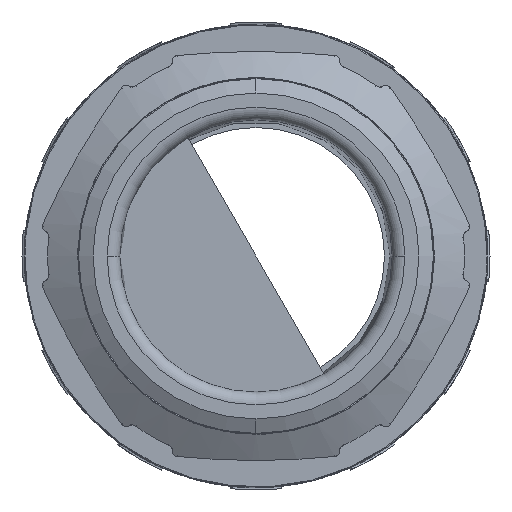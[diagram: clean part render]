
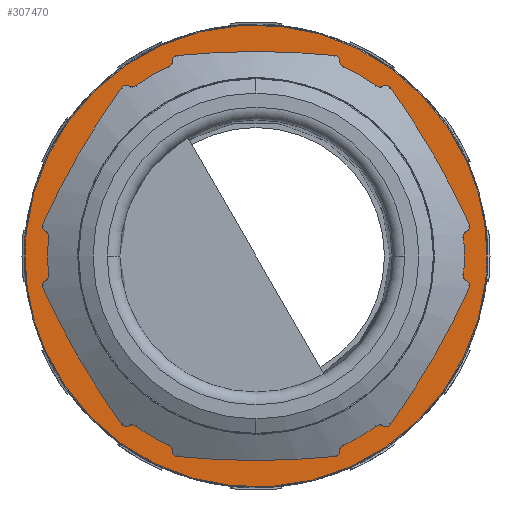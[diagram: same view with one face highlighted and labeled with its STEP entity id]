
A CAD part, left-side view. The second image highlights one B-rep face of the part: STEP entity #307470.
In plain terms, the highlighted planar face has unit normal (-1, 0, 0).
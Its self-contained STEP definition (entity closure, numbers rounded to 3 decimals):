
#301410=CARTESIAN_POINT('',(3476.544,286.338,0.));
#301420=VERTEX_POINT('',#301410);
#301470=CARTESIAN_POINT('',(3476.544,310.033,0.));
#301480=DIRECTION('',(1.,0.,0.));
#301490=DIRECTION('',(0.,1.,0.));
#301500=AXIS2_PLACEMENT_3D('',#301470,#301480,#301490);
#301510=CIRCLE('',#301500,23.695);
#301520=CARTESIAN_POINT('',(3476.544,312.814,
-23.531));
#301530=VERTEX_POINT('',#301520);
#301540=EDGE_CURVE('',#301420,#301530,#301510,.T.);
#301560=CARTESIAN_POINT('',(3476.544,333.728,0.));
#301570=VERTEX_POINT('',#301560);
#301580=EDGE_CURVE('',#301530,#301570,#301510,.T.);
#302280=CARTESIAN_POINT('',(3476.544,307.252,
27.007));
#302290=VERTEX_POINT('',#302280);
#303020=CARTESIAN_POINT('',(3476.544,294.121,
21.998));
#303030=VERTEX_POINT('',#303020);
#303060=CARTESIAN_POINT('',(3476.544,310.033,0.));
#303070=DIRECTION('',(1.,0.,0.));
#303080=DIRECTION('',(0.,1.,0.));
#303090=AXIS2_PLACEMENT_3D('',#303060,#303070,#303080);
#303100=CIRCLE('',#303090,27.15);
#303110=EDGE_CURVE('',#302290,#303030,#303100,.T.);
#306280=CARTESIAN_POINT('',(3476.544,335.456,0.));
#306290=DIRECTION('',(-1.,0.,0.));
#306300=DIRECTION('',(0.,1.,0.));
#306310=AXIS2_PLACEMENT_3D('',#306280,#306290,#306300);
#306320=PLANE('',#306310);
#306330=CARTESIAN_POINT('',(3476.544,310.033,0.));
#306340=DIRECTION('',(1.,0.,0.));
#306350=DIRECTION('',(0.,1.,0.));
#306360=AXIS2_PLACEMENT_3D('',#306330,#306340,#306350);
#306370=CIRCLE('',#306360,27.15);
#306380=CARTESIAN_POINT('',(3476.544,285.254,
11.095));
#306390=VERTEX_POINT('',#306380);
#306400=EDGE_CURVE('',#303030,#306390,#306370,.T.);
#306410=ORIENTED_EDGE('',*,*,#306400,.F.);
#306420=CARTESIAN_POINT('',(3476.544,310.033,0.));
#306430=DIRECTION('',(1.,0.,0.));
#306440=DIRECTION('',(0.,1.,0.));
#306450=AXIS2_PLACEMENT_3D('',#306420,#306430,#306440);
#306460=CIRCLE('',#306450,27.15);
#306470=CARTESIAN_POINT('',(3476.544,282.883,0.));
#306480=VERTEX_POINT('',#306470);
#306490=EDGE_CURVE('',#306390,#306480,#306460,.T.);
#306500=ORIENTED_EDGE('',*,*,#306490,.F.);
#306510=CARTESIAN_POINT('',(3476.544,283.026,
-2.781));
#306520=VERTEX_POINT('',#306510);
#306530=EDGE_CURVE('',#306480,#306520,#306460,.T.);
#306540=ORIENTED_EDGE('',*,*,#306530,.F.);
#306550=CARTESIAN_POINT('',(3476.544,310.033,0.));
#306560=DIRECTION('',(1.,0.,0.));
#306570=DIRECTION('',(0.,1.,0.));
#306580=AXIS2_PLACEMENT_3D('',#306550,#306560,#306570);
#306590=CIRCLE('',#306580,27.15);
#306600=CARTESIAN_POINT('',(3476.544,288.035,
-15.912));
#306610=VERTEX_POINT('',#306600);
#306620=EDGE_CURVE('',#306520,#306610,#306590,.T.);
#306630=ORIENTED_EDGE('',*,*,#306620,.F.);
#306640=CARTESIAN_POINT('',(3476.544,310.033,0.));
#306650=DIRECTION('',(1.,0.,0.));
#306660=DIRECTION('',(0.,1.,0.));
#306670=AXIS2_PLACEMENT_3D('',#306640,#306650,#306660);
#306680=CIRCLE('',#306670,27.15);
#306690=CARTESIAN_POINT('',(3476.544,298.938,
-24.779));
#306700=VERTEX_POINT('',#306690);
#306710=EDGE_CURVE('',#306610,#306700,#306680,.T.);
#306720=ORIENTED_EDGE('',*,*,#306710,.F.);
#306730=CARTESIAN_POINT('',(3476.544,310.033,0.));
#306740=DIRECTION('',(1.,0.,0.));
#306750=DIRECTION('',(0.,1.,0.));
#306760=AXIS2_PLACEMENT_3D('',#306730,#306740,#306750);
#306770=CIRCLE('',#306760,27.15);
#306780=CARTESIAN_POINT('',(3476.544,312.814,
-27.007));
#306790=VERTEX_POINT('',#306780);
#306800=EDGE_CURVE('',#306700,#306790,#306770,.T.);
#306810=ORIENTED_EDGE('',*,*,#306800,.F.);
#306820=CARTESIAN_POINT('',(3476.544,310.033,0.));
#306830=DIRECTION('',(1.,0.,0.));
#306840=DIRECTION('',(0.,1.,0.));
#306850=AXIS2_PLACEMENT_3D('',#306820,#306830,#306840);
#306860=CIRCLE('',#306850,27.15);
#306870=CARTESIAN_POINT('',(3476.544,325.945,
-21.998));
#306880=VERTEX_POINT('',#306870);
#306890=EDGE_CURVE('',#306790,#306880,#306860,.T.);
#306900=ORIENTED_EDGE('',*,*,#306890,.F.);
#306910=CARTESIAN_POINT('',(3476.544,310.033,0.));
#306920=DIRECTION('',(1.,0.,0.));
#306930=DIRECTION('',(0.,1.,0.));
#306940=AXIS2_PLACEMENT_3D('',#306910,#306920,#306930);
#306950=CIRCLE('',#306940,27.15);
#306960=CARTESIAN_POINT('',(3476.544,334.813,
-11.095));
#306970=VERTEX_POINT('',#306960);
#306980=EDGE_CURVE('',#306880,#306970,#306950,.T.);
#306990=ORIENTED_EDGE('',*,*,#306980,.F.);
#307000=CARTESIAN_POINT('',(3476.544,310.033,0.));
#307010=DIRECTION('',(1.,0.,0.));
#307020=DIRECTION('',(0.,1.,0.));
#307030=AXIS2_PLACEMENT_3D('',#307000,#307010,#307020);
#307040=CIRCLE('',#307030,27.15);
#307050=CARTESIAN_POINT('',(3476.544,337.183,0.));
#307060=VERTEX_POINT('',#307050);
#307070=EDGE_CURVE('',#306970,#307060,#307040,.T.);
#307080=ORIENTED_EDGE('',*,*,#307070,.F.);
#307090=CARTESIAN_POINT('',(3476.544,337.04,
2.781));
#307100=VERTEX_POINT('',#307090);
#307110=EDGE_CURVE('',#307060,#307100,#307040,.T.);
#307120=ORIENTED_EDGE('',*,*,#307110,.F.);
#307130=CARTESIAN_POINT('',(3476.544,310.033,0.));
#307140=DIRECTION('',(1.,0.,0.));
#307150=DIRECTION('',(0.,1.,0.));
#307160=AXIS2_PLACEMENT_3D('',#307130,#307140,#307150);
#307170=CIRCLE('',#307160,27.15);
#307180=CARTESIAN_POINT('',(3476.544,332.032,
15.912));
#307190=VERTEX_POINT('',#307180);
#307200=EDGE_CURVE('',#307100,#307190,#307170,.T.);
#307210=ORIENTED_EDGE('',*,*,#307200,.F.);
#307220=CARTESIAN_POINT('',(3476.544,310.033,0.));
#307230=DIRECTION('',(1.,0.,0.));
#307240=DIRECTION('',(0.,1.,0.));
#307250=AXIS2_PLACEMENT_3D('',#307220,#307230,#307240);
#307260=CIRCLE('',#307250,27.15);
#307270=CARTESIAN_POINT('',(3476.544,321.128,
24.779));
#307280=VERTEX_POINT('',#307270);
#307290=EDGE_CURVE('',#307190,#307280,#307260,.T.);
#307300=ORIENTED_EDGE('',*,*,#307290,.F.);
#307310=CARTESIAN_POINT('',(3476.544,310.033,0.));
#307320=DIRECTION('',(1.,0.,0.));
#307330=DIRECTION('',(0.,1.,0.));
#307340=AXIS2_PLACEMENT_3D('',#307310,#307320,#307330);
#307350=CIRCLE('',#307340,27.15);
#307360=EDGE_CURVE('',#307280,#302290,#307350,.T.);
#307370=ORIENTED_EDGE('',*,*,#307360,.F.);
#307380=ORIENTED_EDGE('',*,*,#303110,.F.);
#307390=EDGE_LOOP('',(#307380,#307370,#307300,#307210,#307120,#307080,
#306990,#306900,#306810,#306720,#306630,#306540,#306500,#306410));
#307400=FACE_OUTER_BOUND('',#307390,.T.);
#307410=EDGE_CURVE('',#301570,#301420,#301510,.T.);
#307420=ORIENTED_EDGE('',*,*,#307410,.T.);
#307430=ORIENTED_EDGE('',*,*,#301580,.T.);
#307440=ORIENTED_EDGE('',*,*,#301540,.T.);
#307450=EDGE_LOOP('',(#307440,#307430,#307420));
#307460=FACE_BOUND('',#307450,.T.);
#307470=ADVANCED_FACE('',(#307400,#307460),#306320,.T.);
